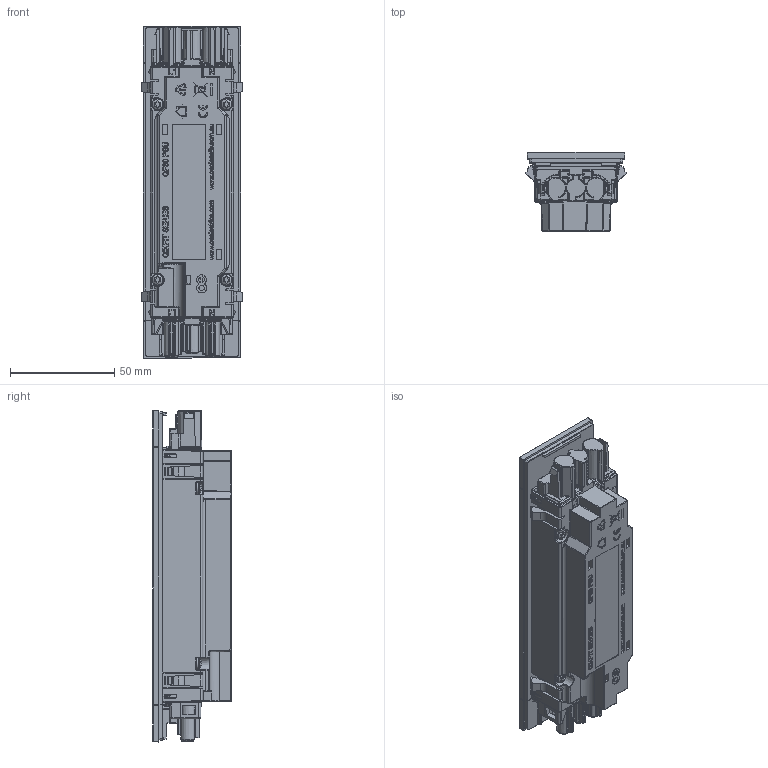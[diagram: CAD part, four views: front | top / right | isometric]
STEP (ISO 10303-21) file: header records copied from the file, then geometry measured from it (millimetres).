
FILE_DESCRIPTION (( 'STEP AP203' ), '1' );
FILE_NAME ('QIKFIT PSU v2.STEP', '2020-10-09T14:51:20', ( '' ), ( '' ), 'SwSTEP 2.0', 'SolidWorks 2019', '' );
FILE_SCHEMA (( 'CONFIG_CONTROL_DESIGN' ));
Length unit declared in the file: millimetre
Products named in the file (1): QIKFIT PSU v2
Bounding box: 48.4 x 37.8 x 159 mm (x, y, z)
Volume: 181908.9 mm3; surface area: 36800.4 mm2
Topology: 1 solids, 1 shells, 3502 faces, 8790 edges, 5348 vertices
Faces by surface type: plane 1295, bspline 1242, cylinder 921, cone 44
Full cylindrical faces by diameter (mm): 1.8 x2, 2.1 x2, 5.5 x4, 7.3 x1, 9.3 x1
Entity records: 134319 total; most frequent: CARTESIAN_POINT 60092, ORIENTED_EDGE 17398, DIRECTION 12323, EDGE_CURVE 8699, VERTEX_POINT 5341, LINE 4753, VECTOR 4753, AXIS2_PLACEMENT_3D 3785
